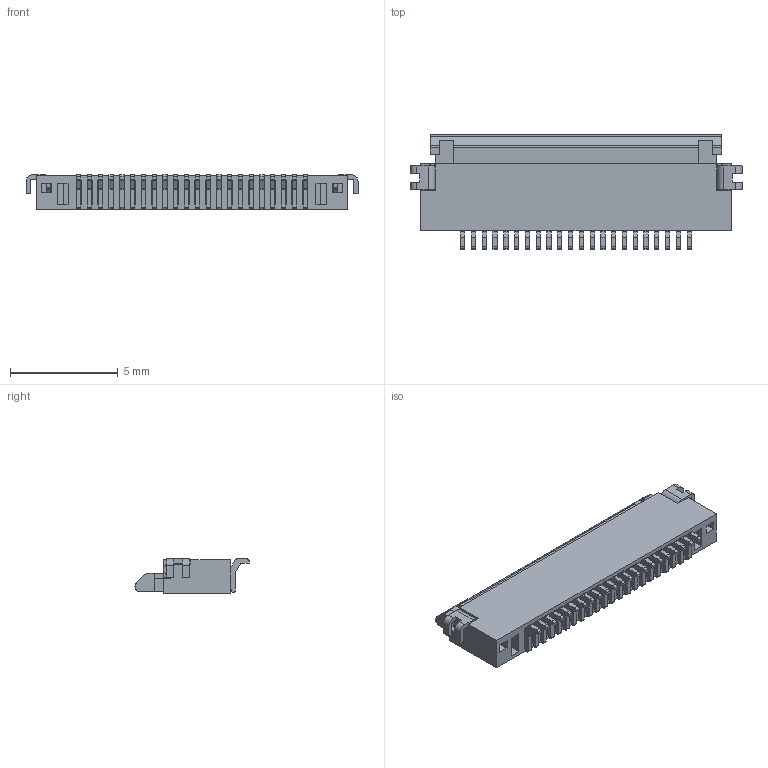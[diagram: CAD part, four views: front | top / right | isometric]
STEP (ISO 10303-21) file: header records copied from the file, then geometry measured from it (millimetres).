
FILE_DESCRIPTION((''),'2;1');
FILE_NAME('S-50506-022XX-XXX','2011-08-23T',('ouchwu'),(''),'PRO/ENGINEER BY PARAMETRIC TECHNOLOGY CORPORATION, 2007450','PRO/ENGINEER BY PARAMETRIC TECHNOLOGY CORPORATION, 2007450','');
FILE_SCHEMA(('CONFIG_CONTROL_DESIGN'));
Length unit declared in the file: millimetre
Products named in the file (1): S-50506-022XX-XXX
Bounding box: 15.4 x 5.29 x 1.6 mm (x, y, z)
Volume: 56.9 mm3; surface area: 483.8 mm2
Topology: 1 solids, 1 shells, 1416 faces, 4358 edges, 2854 vertices
Faces by surface type: plane 916, cylinder 500
Entity records: 48875 total; most frequent: ORIENTED_EDGE 8716, CARTESIAN_POINT 8655, DIRECTION 8274, EDGE_CURVE 4358, VECTOR 3258, LINE 3258, VERTEX_POINT 2854, AXIS2_PLACEMENT_3D 2508
